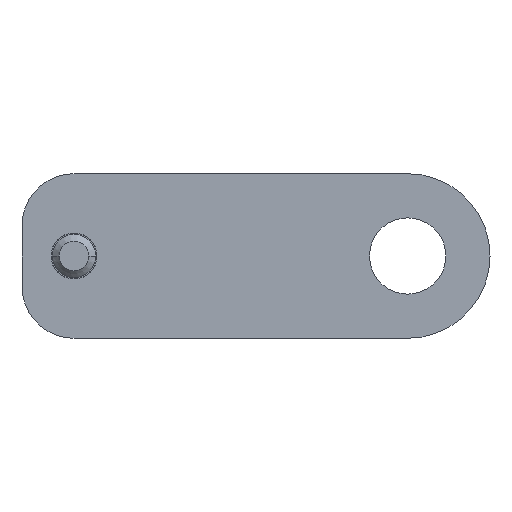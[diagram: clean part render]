
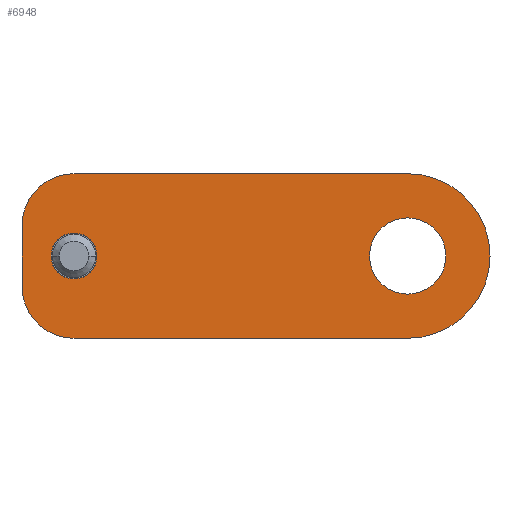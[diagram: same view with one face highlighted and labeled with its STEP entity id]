
A CAD part, front view. The second image highlights one B-rep face of the part: STEP entity #6948.
In plain terms, the highlighted planar face has unit normal (0, -1, 0).
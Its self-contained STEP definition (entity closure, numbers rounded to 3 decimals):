
#62 = EDGE_CURVE ( 'NONE', #9669, #10734, #6289, .T. ) ;
#71 = VERTEX_POINT ( 'NONE', #1200 ) ;
#90 = CARTESIAN_POINT ( 'NONE',  ( 51.603, 17.971, 0. ) ) ;
#156 = EDGE_CURVE ( 'NONE', #3989, #71, #6417, .T. ) ;
#252 = AXIS2_PLACEMENT_3D ( 'NONE', #11978, #6399, #10111 ) ;
#256 = CARTESIAN_POINT ( 'NONE',  ( 51.603, 17.971, -9.5 ) ) ;
#679 = DIRECTION ( 'NONE',  ( 0., -1., 0. ) ) ;
#941 = CARTESIAN_POINT ( 'NONE',  ( 51.603, 17.971, 0. ) ) ;
#995 = LINE ( 'NONE', #2735, #10243 ) ;
#1151 = LINE ( 'NONE', #4871, #5151 ) ;
#1200 = CARTESIAN_POINT ( 'NONE',  ( 15.753, 17.971, 0. ) ) ;
#1312 = EDGE_LOOP ( 'NONE', ( #8274, #2680, #9099, #8537, #8055, #9036 ) ) ;
#1354 = CARTESIAN_POINT ( 'NONE',  ( 13.103, 17.971, 0. ) ) ;
#1616 = CARTESIAN_POINT ( 'NONE',  ( 13.103, 17.971, 9.5 ) ) ;
#1814 = ORIENTED_EDGE ( 'NONE', *, *, #156, .T. ) ;
#1874 = CIRCLE ( 'NONE', #8286, 6. ) ;
#2061 = AXIS2_PLACEMENT_3D ( 'NONE', #10213, #3756, #6445 ) ;
#2135 = AXIS2_PLACEMENT_3D ( 'NONE', #11450, #4997, #3177 ) ;
#2512 = VERTEX_POINT ( 'NONE', #1616 ) ;
#2559 = EDGE_CURVE ( 'NONE', #5763, #6748, #5768, .T. ) ;
#2680 = ORIENTED_EDGE ( 'NONE', *, *, #62, .T. ) ;
#2735 = CARTESIAN_POINT ( 'NONE',  ( 34.265, 17.971, -9.5 ) ) ;
#2799 = DIRECTION ( 'NONE',  ( 1., 0., 0. ) ) ;
#2977 = EDGE_CURVE ( 'NONE', #71, #3989, #3516, .T. ) ;
#3177 = DIRECTION ( 'NONE',  ( -1., 0., 0. ) ) ;
#3185 = DIRECTION ( 'NONE',  ( 0., 1., 0. ) ) ;
#3266 = VECTOR ( 'NONE', #5971, 1000. ) ;
#3516 = CIRCLE ( 'NONE', #9742, 2.65 ) ;
#3722 = EDGE_CURVE ( 'NONE', #2512, #10734, #1151, .T. ) ;
#3756 = DIRECTION ( 'NONE',  ( 0., -1., 0. ) ) ;
#3769 = ORIENTED_EDGE ( 'NONE', *, *, #2977, .T. ) ;
#3989 = VERTEX_POINT ( 'NONE', #11968 ) ;
#4325 = EDGE_CURVE ( 'NONE', #7828, #9669, #995, .T. ) ;
#4481 = CARTESIAN_POINT ( 'NONE',  ( 13.103, 17.971, -3.5 ) ) ;
#4491 = EDGE_CURVE ( 'NONE', #5237, #11193, #10539, .T. ) ;
#4592 = AXIS2_PLACEMENT_3D ( 'NONE', #941, #5520, #9227 ) ;
#4871 = CARTESIAN_POINT ( 'NONE',  ( 32.353, 17.971, 9.5 ) ) ;
#4997 = DIRECTION ( 'NONE',  ( 0., 1., 0. ) ) ;
#5069 = DIRECTION ( 'NONE',  ( -1., 0., 0. ) ) ;
#5151 = VECTOR ( 'NONE', #6930, 1000. ) ;
#5164 = PLANE ( 'NONE',  #2061 ) ;
#5237 = VERTEX_POINT ( 'NONE', #8223 ) ;
#5520 = DIRECTION ( 'NONE',  ( 0., 1., 0. ) ) ;
#5526 = CIRCLE ( 'NONE', #252, 4.4 ) ;
#5667 = DIRECTION ( 'NONE',  ( 0., -1., 0. ) ) ;
#5763 = VERTEX_POINT ( 'NONE', #7524 ) ;
#5768 = CIRCLE ( 'NONE', #4592, 4.4 ) ;
#5959 = EDGE_CURVE ( 'NONE', #11193, #7828, #8019, .T. ) ;
#5971 = DIRECTION ( 'NONE',  ( 0., 0., -1. ) ) ;
#6265 = FACE_BOUND ( 'NONE', #10849, .T. ) ;
#6289 = CIRCLE ( 'NONE', #7821, 9.5 ) ;
#6399 = DIRECTION ( 'NONE',  ( 0., 1., 0. ) ) ;
#6417 = CIRCLE ( 'NONE', #2135, 2.65 ) ;
#6445 = DIRECTION ( 'NONE',  ( 0., 0., -1. ) ) ;
#6748 = VERTEX_POINT ( 'NONE', #7025 ) ;
#6873 = AXIS2_PLACEMENT_3D ( 'NONE', #4481, #679, #7023 ) ;
#6874 = CARTESIAN_POINT ( 'NONE',  ( 7.103, 17.971, 0. ) ) ;
#6922 = DIRECTION ( 'NONE',  ( 0., -1., 0. ) ) ;
#6930 = DIRECTION ( 'NONE',  ( 1., 0., 0. ) ) ;
#6948 = ADVANCED_FACE ( 'NONE', ( #6265, #7950, #10894 ), #5164, .T. ) ;
#7023 = DIRECTION ( 'NONE',  ( 0., 0., -1. ) ) ;
#7025 = CARTESIAN_POINT ( 'NONE',  ( 47.203, 17.971, 0. ) ) ;
#7524 = CARTESIAN_POINT ( 'NONE',  ( 56.003, 17.971, 0. ) ) ;
#7764 = EDGE_LOOP ( 'NONE', ( #1814, #3769 ) ) ;
#7816 = CARTESIAN_POINT ( 'NONE',  ( 13.103, 17.971, 3.5 ) ) ;
#7821 = AXIS2_PLACEMENT_3D ( 'NONE', #90, #5667, #10402 ) ;
#7828 = VERTEX_POINT ( 'NONE', #11069 ) ;
#7950 = FACE_BOUND ( 'NONE', #7764, .T. ) ;
#8019 = CIRCLE ( 'NONE', #6873, 6. ) ;
#8055 = ORIENTED_EDGE ( 'NONE', *, *, #4491, .T. ) ;
#8223 = CARTESIAN_POINT ( 'NONE',  ( 7.103, 17.971, 3.5 ) ) ;
#8274 = ORIENTED_EDGE ( 'NONE', *, *, #4325, .T. ) ;
#8286 = AXIS2_PLACEMENT_3D ( 'NONE', #7816, #6922, #10705 ) ;
#8537 = ORIENTED_EDGE ( 'NONE', *, *, #10141, .T. ) ;
#8847 = ORIENTED_EDGE ( 'NONE', *, *, #2559, .T. ) ;
#9036 = ORIENTED_EDGE ( 'NONE', *, *, #5959, .T. ) ;
#9099 = ORIENTED_EDGE ( 'NONE', *, *, #3722, .F. ) ;
#9227 = DIRECTION ( 'NONE',  ( -1., 0., 0. ) ) ;
#9669 = VERTEX_POINT ( 'NONE', #256 ) ;
#9742 = AXIS2_PLACEMENT_3D ( 'NONE', #1354, #3185, #5069 ) ;
#10111 = DIRECTION ( 'NONE',  ( -1., 0., 0. ) ) ;
#10141 = EDGE_CURVE ( 'NONE', #2512, #5237, #1874, .T. ) ;
#10213 = CARTESIAN_POINT ( 'NONE',  ( 7.103, 17.971, 9.5 ) ) ;
#10243 = VECTOR ( 'NONE', #2799, 1000. ) ;
#10273 = ORIENTED_EDGE ( 'NONE', *, *, #11540, .T. ) ;
#10371 = CARTESIAN_POINT ( 'NONE',  ( 7.103, 17.971, -3.5 ) ) ;
#10402 = DIRECTION ( 'NONE',  ( 0., 0., -1. ) ) ;
#10539 = LINE ( 'NONE', #6874, #3266 ) ;
#10653 = CARTESIAN_POINT ( 'NONE',  ( 51.603, 17.971, 9.5 ) ) ;
#10705 = DIRECTION ( 'NONE',  ( 0., 0., -1. ) ) ;
#10734 = VERTEX_POINT ( 'NONE', #10653 ) ;
#10849 = EDGE_LOOP ( 'NONE', ( #10273, #8847 ) ) ;
#10894 = FACE_OUTER_BOUND ( 'NONE', #1312, .T. ) ;
#11069 = CARTESIAN_POINT ( 'NONE',  ( 13.103, 17.971, -9.5 ) ) ;
#11193 = VERTEX_POINT ( 'NONE', #10371 ) ;
#11450 = CARTESIAN_POINT ( 'NONE',  ( 13.103, 17.971, 0. ) ) ;
#11540 = EDGE_CURVE ( 'NONE', #6748, #5763, #5526, .T. ) ;
#11968 = CARTESIAN_POINT ( 'NONE',  ( 10.453, 17.971, 0. ) ) ;
#11978 = CARTESIAN_POINT ( 'NONE',  ( 51.603, 17.971, 0. ) ) ;
